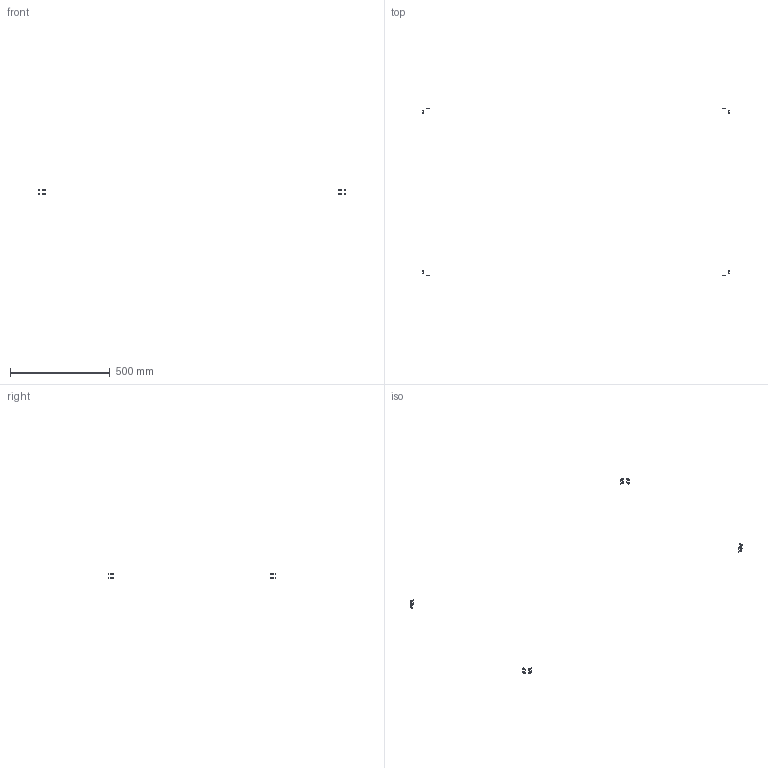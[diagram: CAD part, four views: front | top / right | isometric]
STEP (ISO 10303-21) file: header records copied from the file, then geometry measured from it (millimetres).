
FILE_DESCRIPTION(/* description */ (''),/* implementation_level */ '2;1');
FILE_NAME(/* name */ '4.frame-door#4.1#HNTPZ5-5',/* time_stamp */ '2014-12-01T20:12:31+01:00',/* author */ (''),/* organization */ (''),/* preprocessor_version */ 'ST-DEVELOPER v14',/* originating_system */ '',/* authorisation */ '');
FILE_SCHEMA (('AUTOMOTIVE_DESIGN'));
Length unit declared in the file: millimetre
Products named in the file (2): Document; nut tslot, post, M5
Assembly tree (8 placements, depth 2):
  Document
    nut tslot, post, M5  x8
Bounding box: 1534.4 x 840.4 x 28.3 mm (x, y, z)
Volume: 5040.2 mm3; surface area: 6712.1 mm2
Topology: 16 solids, 16 shells, 208 faces, 576 edges, 384 vertices
Faces by surface type: plane 176, bspline 32
Entity records: 8673 total; most frequent: CARTESIAN_POINT 4115, B_SPLINE_CURVE_WITH_KNOTS 900, ORIENTED_EDGE 648, PCURVE 648, DEFINITIONAL_REPRESENTATION 648, SURFACE_CURVE 324, EDGE_CURVE 324, VERTEX_POINT 216
